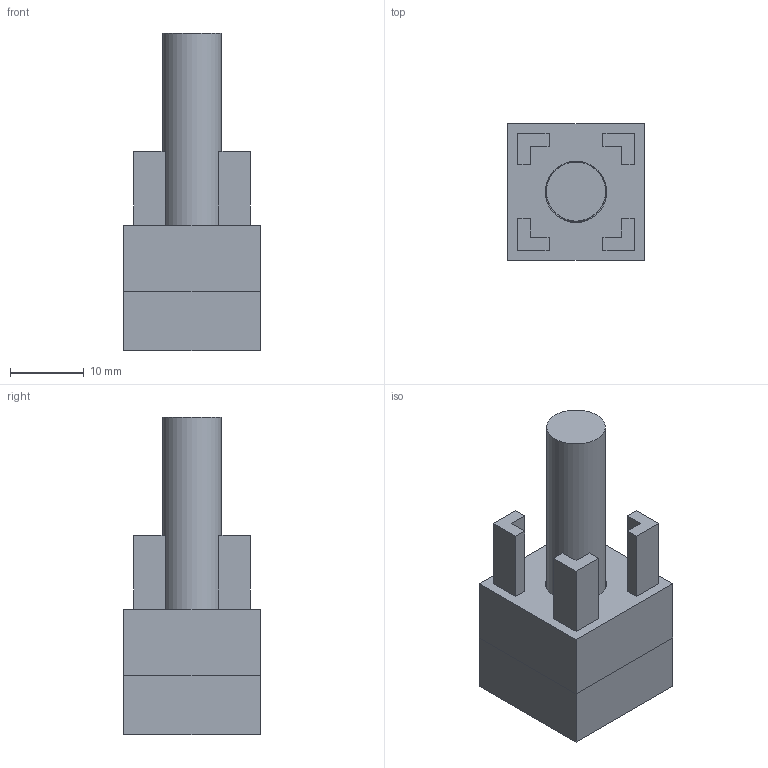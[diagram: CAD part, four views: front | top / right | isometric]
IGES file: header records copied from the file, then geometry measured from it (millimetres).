
Start section: Data from Parasolid IGES Translator 20.0.26, Copyright(c) 2006 Siemens P LM Software. All Rights Reserved.
Global section: file name: 9298853.igs; native system: By Siemens PLM Incorporated; preprocessor: XPlus GENERIC/IGES 20.0.26; author: Noname; organization: Noname; date: 20210824.165042; units: millimetre
Bounding box: 18.5 x 18.5 x 43 mm (x, y, z)
Surface area: 4313.1 mm2 (no closed solid volume)
Topology: 0 solids, 0 shells, 43 faces, 204 edges, 202 vertices
Faces by surface type: extrusion 41, revolution 2
